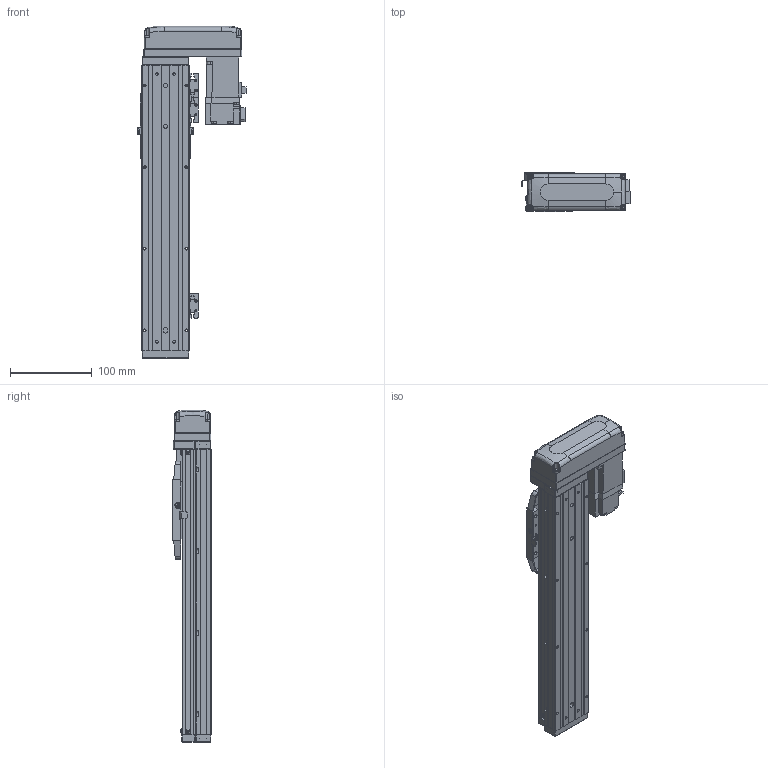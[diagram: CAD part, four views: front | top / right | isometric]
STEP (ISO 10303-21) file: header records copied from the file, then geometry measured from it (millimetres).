
FILE_DESCRIPTION (( 'STEP AP203' ), '1' );
FILE_NAME ('CTHA50-200-BL-M10-C4L.step', '2022-03-19T05:59:07', ( '微软用户' ), ( '微软中国' ), 'SwSTEP 2.0', 'SolidWorks 2020', '' );
FILE_SCHEMA (( 'CONFIG_CONTROL_DESIGN' ));
Length unit declared in the file: millimetre
Products named in the file (20): GBT 70.1-M3℅6; CTHA50-030; KTHA50-001_350; CTHA60-017; CTHA50-031; KTHA50-004; GBT 70.1-M4×12; GBT 70.3-M3℅6; KTHA50-005; CTHA60-016; CTHA50-015-2_CTHA60-015-2; GB¨uT 70.2-M3¡Á6_M3¡Á6; CTHA60-021; CTHA60-033; EE_SX911P_R; HG-KR13（三菱）; GBT 70.1-M3×15; GBT77-2000 M3×3; CTHA50-002; CTHA50-200-BL-M10-C4L
Assembly tree (60 placements, depth 2):
  CTHA50-200-BL-M10-C4L
    KTHA50-001_350
    KTHA50-004
    KTHA50-005
    GB¨uT 70.2-M3¡Á6_M3¡Á6  x10
    EE_SX911P_R  x3
    GBT77-2000 M3×3  x6
    GBT 70.1-M3℅6  x6
    CTHA60-017  x3
    GBT 70.1-M4×12  x10
    CTHA60-016  x2
    CTHA60-021  x2
    HG-KR13（三菱）
    CTHA50-002
    CTHA50-030  x2
    CTHA50-031
    GBT 70.3-M3℅6  x4
    CTHA50-015-2_CTHA60-015-2
    CTHA60-033
    GBT 70.1-M3×15  x4
Bounding box: 132.6 x 48 x 407 mm (x, y, z)
Volume: 945901.9 mm3; surface area: 247425.4 mm2
Topology: 62 solids, 62 shells, 2473 faces, 5855 edges, 3582 vertices
Faces by surface type: plane 1398, cylinder 570, cone 347, torus 108, bspline 26, sphere 24
Entity records: 41393 total; most frequent: CARTESIAN_POINT 7659, DIRECTION 6425, ORIENTED_EDGE 6218, EDGE_CURVE 3109, VECTOR 2169, LINE 2169, AXIS2_PLACEMENT_3D 2128, VERTEX_POINT 1956
